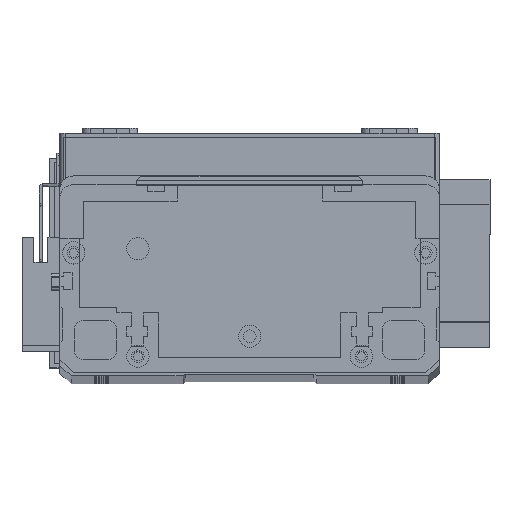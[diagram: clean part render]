
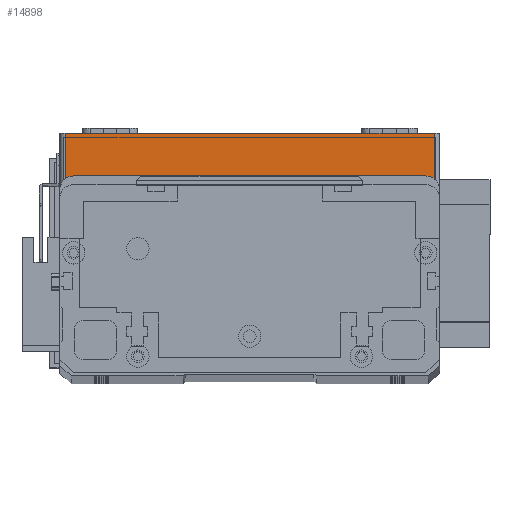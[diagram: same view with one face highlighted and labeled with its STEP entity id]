
A CAD part, top view. The second image highlights one B-rep face of the part: STEP entity #14898.
In plain terms, the highlighted planar face has unit normal (0, 0, 1) as drawn and (0, -1, 0) by its records, which use the part's own axes.
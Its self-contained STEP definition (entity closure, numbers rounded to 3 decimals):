
#232 = VECTOR ( 'NONE', #29309, 1000. ) ;
#237 = VERTEX_POINT ( 'NONE', #17013 ) ;
#1889 = DIRECTION ( 'NONE',  ( 0., 0., 1. ) ) ;
#1986 = EDGE_CURVE ( 'NONE', #237, #17875, #24437, .T. ) ;
#2120 = ORIENTED_EDGE ( 'NONE', *, *, #24280, .T. ) ;
#3072 = DIRECTION ( 'NONE',  ( 0., 0., 1. ) ) ;
#3339 = EDGE_CURVE ( 'NONE', #6816, #17875, #22976, .T. ) ;
#3790 = DIRECTION ( 'NONE',  ( 1., 0., 0. ) ) ;
#5188 = PLANE ( 'NONE',  #22474 ) ;
#6251 = LINE ( 'NONE', #19870, #11634 ) ;
#6816 = VERTEX_POINT ( 'NONE', #21432 ) ;
#7974 = CARTESIAN_POINT ( 'NONE',  ( 0., 0., 19.5 ) ) ;
#8613 = CARTESIAN_POINT ( 'NONE',  ( 2., 0., 19.5 ) ) ;
#8850 = FACE_OUTER_BOUND ( 'NONE', #10192, .T. ) ;
#10192 = EDGE_LOOP ( 'NONE', ( #21411, #23419, #2120, #14965 ) ) ;
#11634 = VECTOR ( 'NONE', #3790, 1000. ) ;
#13350 = CARTESIAN_POINT ( 'NONE',  ( 134., 0., 19.5 ) ) ;
#14898 = ADVANCED_FACE ( 'NONE', ( #8850 ), #5188, .F. ) ;
#14965 = ORIENTED_EDGE ( 'NONE', *, *, #3339, .T. ) ;
#16406 = LINE ( 'NONE', #8613, #232 ) ;
#16821 = DIRECTION ( 'NONE',  ( 0., 1., 0. ) ) ;
#16943 = EDGE_CURVE ( 'NONE', #237, #20577, #16406, .T. ) ;
#17013 = CARTESIAN_POINT ( 'NONE',  ( 2., 0., 19.5 ) ) ;
#17875 = VERTEX_POINT ( 'NONE', #27941 ) ;
#19870 = CARTESIAN_POINT ( 'NONE',  ( 0., 0., 0. ) ) ;
#20577 = VERTEX_POINT ( 'NONE', #26702 ) ;
#21411 = ORIENTED_EDGE ( 'NONE', *, *, #1986, .F. ) ;
#21432 = CARTESIAN_POINT ( 'NONE',  ( 134., 0., 0. ) ) ;
#22474 = AXIS2_PLACEMENT_3D ( 'NONE', #28293, #16821, #3072 ) ;
#22976 = LINE ( 'NONE', #13350, #28350 ) ;
#23419 = ORIENTED_EDGE ( 'NONE', *, *, #16943, .T. ) ;
#23736 = VECTOR ( 'NONE', #26368, 1000. ) ;
#24280 = EDGE_CURVE ( 'NONE', #20577, #6816, #6251, .T. ) ;
#24437 = LINE ( 'NONE', #7974, #23736 ) ;
#26368 = DIRECTION ( 'NONE',  ( 1., 0., 0. ) ) ;
#26702 = CARTESIAN_POINT ( 'NONE',  ( 2., 0., 0. ) ) ;
#27941 = CARTESIAN_POINT ( 'NONE',  ( 134., 0., 19.5 ) ) ;
#28293 = CARTESIAN_POINT ( 'NONE',  ( 0., 0., 19.5 ) ) ;
#28350 = VECTOR ( 'NONE', #1889, 1000. ) ;
#29309 = DIRECTION ( 'NONE',  ( 0., 0., -1. ) ) ;
